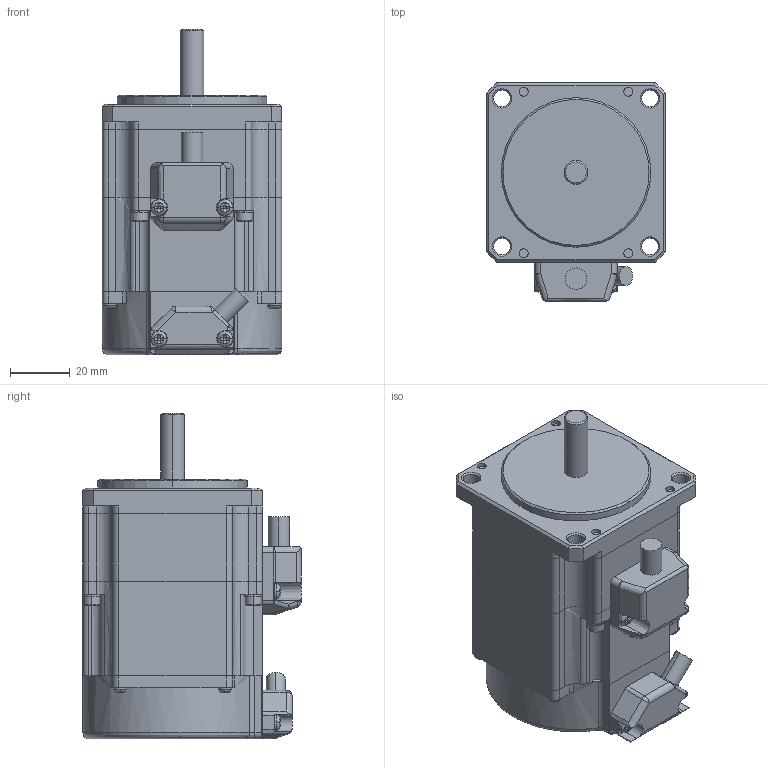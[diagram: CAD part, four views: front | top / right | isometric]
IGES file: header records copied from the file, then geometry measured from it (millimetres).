
Start section: Elysium IGES Interface
Global section: file name: 79H\\nas63\design\04MC研\saka\3DCAD\TBL-i2カタログまとめ\IGSデータ\TS4606_BK有.igs; native system: Creo Elements/Direct Modeling 17.0F  20-Aug-2012; preprocessor: Creo Element/Direct IGES_3D V2.2; author: Unknown; organization: Unknown; date: 20161222.162014; units: millimetre
Bounding box: 60 x 73 x 108.8 mm (x, y, z)
Volume: 278617.2 mm3; surface area: 29267 mm2
Topology: 1 solids, 1 shells, 687 faces, 1564 edges, 878 vertices
Faces by surface type: bspline 687
